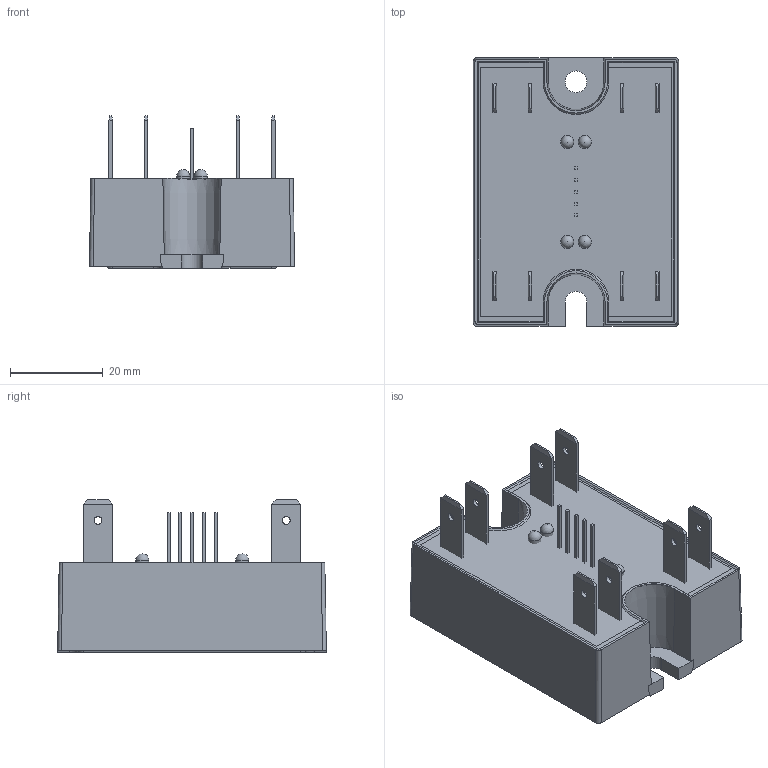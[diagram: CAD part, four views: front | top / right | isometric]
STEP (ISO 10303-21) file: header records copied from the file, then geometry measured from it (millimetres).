
FILE_DESCRIPTION(/* description */ (''),/* implementation_level */ '2;1');
FILE_NAME(/* name */ 'C:\Users\gmarion\Desktop\2D3D 624 A\2D3D 624 A.stp',/* time_stamp */ '2015-03-09T10:13:52+01:00',/* author */ ('Guillaume MARION Technicien méthodes +33 (0)4 77 53 90 29'),/* organization */ ('5, Rue Ampère, BP 30004 42 290 Sorbiers, France +33 (0)4 77 53 90 00 www.celduc.com'),/* preprocessor_version */ 'ST-DEVELOPER v15.2',/* originating_system */ 'Autodesk Inventor 2014',/* authorisation */ '');
FILE_SCHEMA (('AUTOMOTIVE_DESIGN { 1 0 10303 214 3 1 1 }'));
Length unit declared in the file: millimetre
Products named in the file (1): SCQ8xx xxx
Bounding box: 44.3 x 58.06 x 33 mm (x, y, z)
Volume: 45534.6 mm3; surface area: 27057.1 mm2
Topology: 17 solids, 17 shells, 627 faces, 1615 edges, 1046 vertices
Faces by surface type: plane 527, cylinder 60, cone 36, sphere 4
Full cylindrical faces by diameter (mm): 1.7 x8, 2.8 x4, 3.2 x4, 4.7 x1
Entity records: 18668 total; most frequent: CARTESIAN_POINT 3236, ORIENTED_EDGE 3180, DIRECTION 3026, EDGE_CURVE 1578, LINE 1386, VECTOR 1386, VERTEX_POINT 1030, AXIS2_PLACEMENT_3D 820
